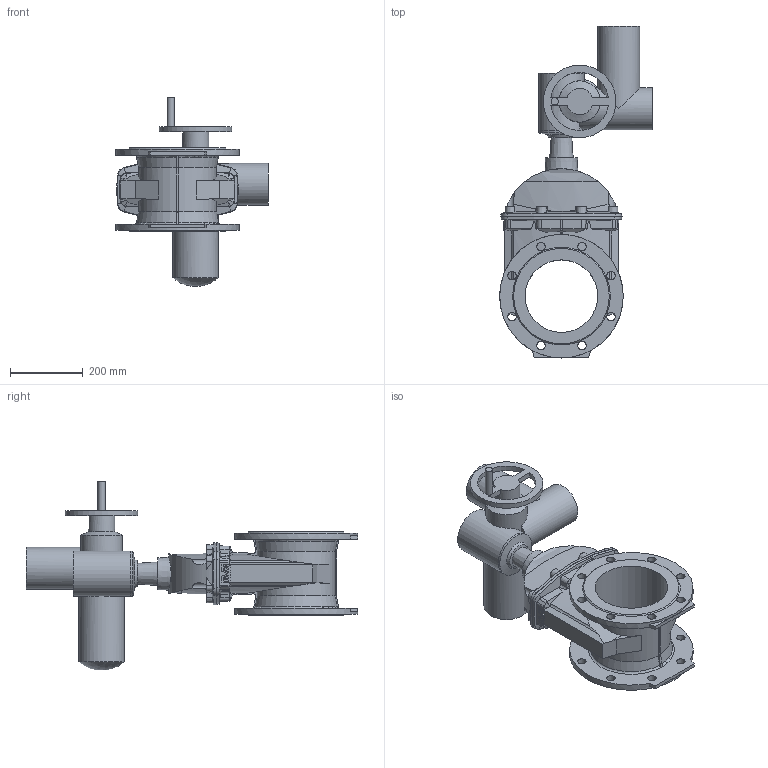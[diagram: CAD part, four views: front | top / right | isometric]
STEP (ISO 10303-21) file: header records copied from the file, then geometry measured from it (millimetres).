
FILE_DESCRIPTION (( 'STEP AP203' ), '1' );
FILE_NAME ('O_15_42_DN200_X0XXX099_SA10.2_AA0.step', '2017-03-20T12:39:33', ( 'Windows User' ), ( 'AVK' ), 'SwSTEP 2.0', 'SolidWorks 2012', '' );
FILE_SCHEMA (( 'CONFIG_CONTROL_DESIGN' ));
Length unit declared in the file: inch
Products named in the file (1): O_15_42_DN200_X0XXX099_SA10.2_AA0
Bounding box: 420 x 914 x 520.49 mm (x, y, z)
Volume: 21549593.8 mm3; surface area: 1208556.6 mm2
Topology: 1 solids, 1 shells, 365 faces, 1046 edges, 678 vertices
Faces by surface type: plane 166, cylinder 95, cone 87, sphere 11, bspline 4, torus 2
Full cylindrical faces by diameter (mm): 20 x1, 23 x16, 72.112 x1, 113.905 x1, 115 x2, 125 x3, 200 x2, 340 x2
Entity records: 13507 total; most frequent: CARTESIAN_POINT 4618, ORIENTED_EDGE 1922, DIRECTION 1681, EDGE_CURVE 961, VERTEX_POINT 645, AXIS2_PLACEMENT_3D 600, LINE 481, VECTOR 481
